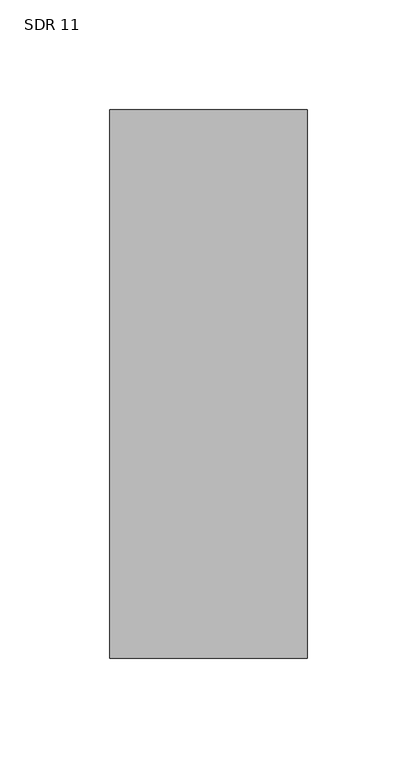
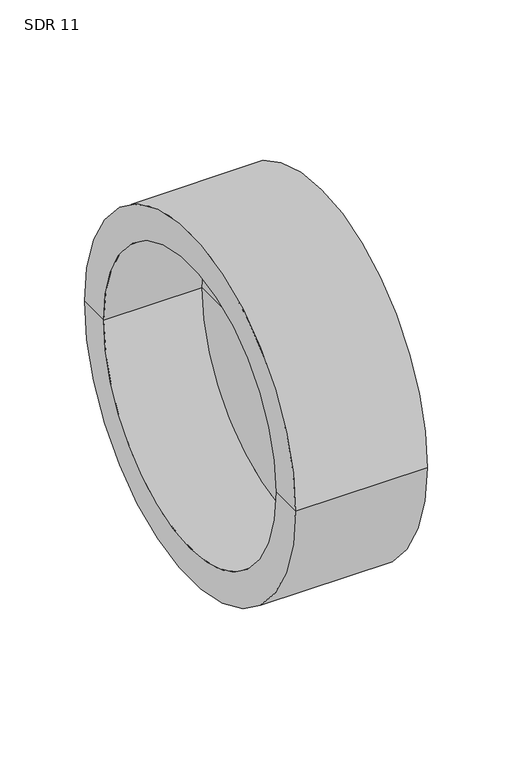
"""IFC4 building model written with IfcOpenShell, lengths in millimetres: pipe fitting geometry, Aquatherm - End Cap Butt-Weld : SDR 11."""

from ifc_helpers import new_model, si_unit, frame, origin, place, context, project, spatial, polyline, circle_curve, source, transform, mapped, element, save
from ifc_brep_helpers import plane_surface, cylinder_surface, revolved_surface, advanced_brep


def sdr_11_bae54d04(model_context):
    return source(origin(), model_context, "Body", "AdvancedBrep", [
        advanced_brep(
        [(89.916, -124.968, 0.0), (89.916, 124.968, 0.0), (89.916, 0.0, 0.0), (67.31, 0.0, 0.0), (67.31, 102.362, 0.0), (67.31, -102.362, 0.0), (0.0, 102.362, 0.0), (0.0, -102.362, 0.0), (0.0, 124.968, 0.0), (0.0, -124.968, 0.0)],
        [
            (0, 1, circle_curve(frame((89.916, 0.0, 0.0), z_axis=(1.0, 0.0, 0.0), x_axis=(0.0, 1.0, 0.0)), 124.968)),
            (1, 2),
            (2, 0),
            (1, 0, circle_curve(frame((89.916, 0.0, 0.0), z_axis=(1.0, 0.0, 0.0), x_axis=(0.0, 1.0, 0.0)), 124.968)),
            (3, 4),
            (4, 5, circle_curve(frame((67.31, 0.0, 0.0), z_axis=(-1.0, 0.0, 0.0), x_axis=(0.0, 1.0, 0.0)), 102.362)),
            (5, 3),
            (5, 4, circle_curve(frame((67.31, 0.0, 0.0), z_axis=(-1.0, 0.0, 0.0), x_axis=(0.0, 1.0, 0.0)), 102.362)),
            (4, 6),
            (6, 7, circle_curve(frame((0.0, 0.0, 0.0), z_axis=(-1.0, 0.0, 0.0), x_axis=(0.0, 1.0, 0.0)), 102.362)),
            (7, 5),
            (7, 6, circle_curve(frame((0.0, 0.0, 0.0), z_axis=(-1.0, 0.0, 0.0), x_axis=(0.0, 1.0, 0.0)), 102.362)),
            (6, 8),
            (8, 9, circle_curve(frame((0.0, 0.0, 0.0), z_axis=(-1.0, 0.0, 0.0), x_axis=(0.0, 1.0, 0.0)), 124.968)),
            (9, 7),
            (9, 8, circle_curve(frame((0.0, 0.0, 0.0), z_axis=(-1.0, 0.0, 0.0), x_axis=(0.0, 1.0, 0.0)), 124.968)),
            (8, 1),
            (0, 9),
        ],
        [
            plane_surface(frame((89.916, 0.0, 0.0), z_axis=(1.0, 0.0, 0.0), x_axis=(0.0, 1.0, 0.0))),
            plane_surface(frame((67.31, 0.0, 0.0), z_axis=(-1.0, 0.0, 0.0), x_axis=(0.0, 1.0, 0.0))),
            revolved_surface(polyline([(0.0, 102.362, 0.0), (67.30999999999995, 102.362, 0.0)]), (-1354.074, 0.0, 0.0), (-1.0, 0.0, 0.0)),
            plane_surface(frame((0.0, 0.0, 0.0), z_axis=(-1.0, 0.0, 0.0), x_axis=(0.0, 1.0, 0.0))),
            cylinder_surface(frame((-1354.074, 0.0, 0.0), z_axis=(-1.0, 0.0, 0.0), x_axis=(0.0, 1.0, 0.0)), 124.968),
        ],
        [
            (0, [[1, 2, 3]]),
            (0, [[4, -3, -2]]),
            (1, [[5, 6, 7]]),
            (1, [[-7, 8, -5]]),
            (2, [[-6, 9, 10, 11]]),
            (2, [[-8, -11, 12, -9]]),
            (3, [[-10, 13, 14, 15]]),
            (3, [[-12, -15, 16, -13]]),
            (4, [[-14, 17, -1, 18]]),
            (4, [[-16, -18, -4, -17]]),
        ],
    ),
    ])


if __name__ == "__main__":
    model = new_model("IFC4")
    model_context = context("Model", 3, world=origin())
    ifc_project = project(units=[si_unit("LENGTHUNIT", "METRE", prefix="MILLI")], contexts=[model_context])
    site = spatial("IfcSite", under=ifc_project)
    building = spatial("IfcBuilding", under=site)
    placement = place(None, origin())
    sdr_11_shape = sdr_11_bae54d04(model_context)
    element("IfcPipeFitting", 1, ObjectType="Aquatherm - End Cap Butt-Weld : SDR 11", at=placement, inside=building, context=model_context, shape_type="MappedRepresentation", body=[
        mapped(sdr_11_shape, transform((0.0, 0.0, 0.0), x_axis=(1.0, 0.0, 0.0), y_axis=(0.0, 1.0, 0.0), z_axis=(0.0, 0.0, 1.0))),
    ])
    save(model, "model.ifc")
